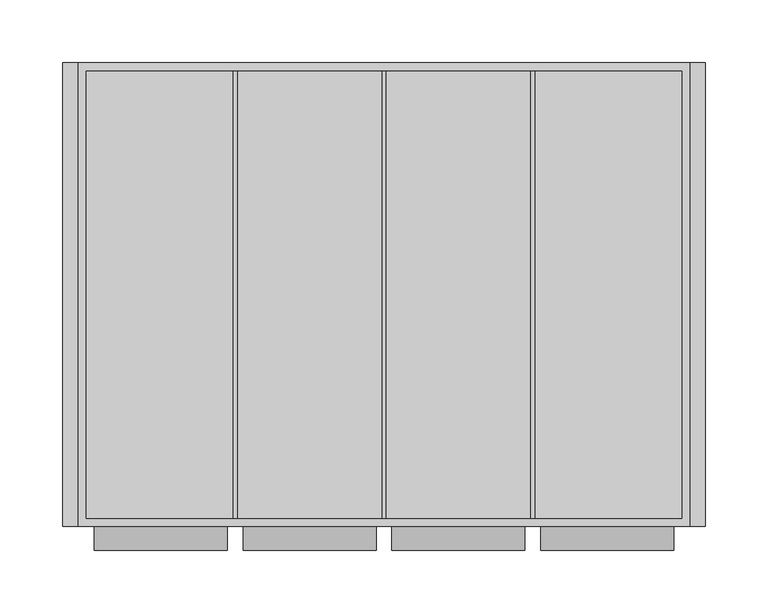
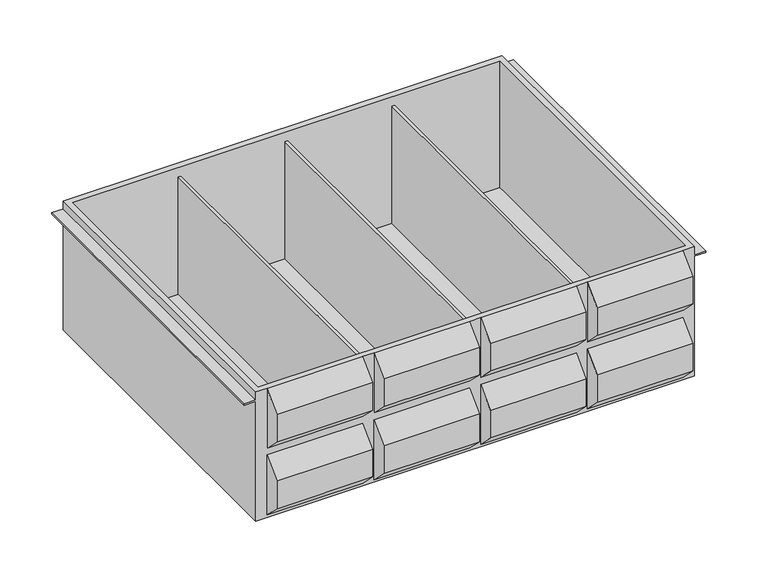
"""IFC4 building model written with IfcOpenShell, lengths in millimetres: furniture geometry, HermanMiller_CoStruc_CO565_Cassette Assembly : 6H x 15D x 20W."""

from ifc_helpers import new_model, si_unit, origin, place, context, project, spatial, faceted_brep, source, transform, mapped, element, save


def furniture_104e2584(model_context):
    return source(origin(), model_context, "Body", "Brep", [
        faceted_brep([(-238.125, -176.2125, 925.4109), (-250.825, -176.2125, 925.4109), (-250.825, -176.2125, 915.8986), (-263.525, -176.2125, 915.8986), (-263.525, -176.2125, 914.3111), (-250.825, -176.2125, 914.3111), (-250.825, -176.2125, 773.0109), (238.125, -176.2125, 773.0109), (238.125, -176.2125, 914.3111), (250.825, -176.2125, 914.3111), (250.825, -176.2125, 915.8986), (238.125, -176.2125, 915.8986), (238.125, -176.2125, 925.4109), (225.425, -176.2125, 925.4109), (225.425, -176.2125, 854.8226237), (119.0625, -176.2125, 854.8226237), (119.0625, -176.2125, 925.4109), (106.3625, -176.2125, 925.4109), (106.3625, -176.2125, 854.8226237), (0.0, -176.2125, 854.8226237), (0.0, -176.2125, 925.4109), (-12.7, -176.2125, 925.4109), (-12.7, -176.2125, 854.8226237), (-119.0625, -176.2125, 854.8226237), (-119.0625, -176.2125, 925.4109), (-131.7625, -176.2125, 925.4109), (-131.7625, -176.2125, 854.8226237), (-238.125, -176.2125, 854.8226237), (-131.7625, -176.2125, 846.6253481), (-131.7625, -176.2125, 776.0370719), (-238.125, -176.2125, 776.0370719), (-238.125, -176.2125, 846.6253481), (-119.0625, -176.2125, 776.0370719), (-119.0625, -176.2125, 846.6253481), (-12.7, -176.2125, 846.6253481), (-12.7, -176.2125, 776.0370719), (106.3625, -176.2125, 846.6253481), (106.3625, -176.2125, 776.0370719), (0.0, -176.2125, 776.0370719), (0.0, -176.2125, 846.6253481), (119.0625, -176.2125, 776.0370719), (119.0625, -176.2125, 846.6253481), (225.425, -176.2125, 846.6253481), (225.425, -176.2125, 776.0370719), (-250.825, 195.2625, 925.4109), (238.125, 195.2625, 925.4109), (238.125, 195.2625, 915.8986), (250.825, 195.2625, 915.8986), (250.825, 195.2625, 914.3111), (238.125, 195.2625, 914.3111), (238.125, 195.2625, 773.0109), (-250.825, 195.2625, 773.0109), (-250.825, 195.2625, 914.3111), (-263.525, 195.2625, 914.3111), (-263.525, 195.2625, 915.8986), (-250.825, 195.2625, 915.8986), (231.775, -169.8625, 925.4109), (-244.475, -169.8625, 925.4109), (-244.475, 188.2775, 925.4109), (231.775, 188.2775, 925.4109), (-131.7625, -195.2625, 795.0870719), (-131.7625, -195.2625, 827.5753481), (-131.7625, -195.2625, 906.3609), (-131.7625, -195.2625, 873.8726237), (-238.125, -195.2625, 795.0870719), (-238.125, -195.2625, 827.5753481), (-238.125, -195.2625, 873.8726237), (-238.125, -195.2625, 906.3609), (231.775, -169.8625, 776.0370719), (231.775, 188.2775, 776.0370719), (114.3, 188.2775, 776.0370719), (114.3, -169.8625, 776.0370719), (-244.475, 188.2775, 776.0370719), (-244.475, -169.8625, 776.0370719), (-127.0, -169.8625, 776.0370719), (-127.0, 188.2775, 776.0370719), (-4.7625, -169.8625, 776.0370719), (111.125, -169.8625, 776.0370719), (111.125, 188.2775, 776.0370719), (-4.7625, 188.2775, 776.0370719), (-123.825, -169.8625, 776.0370719), (-7.9375, -169.8625, 776.0370719), (-7.9375, 188.2775, 776.0370719), (-123.825, 188.2775, 776.0370719), (114.3, -169.8625, 914.3111), (111.125, -169.8625, 914.3111), (-4.7625, -169.8625, 914.3111), (-7.9375, -169.8625, 914.3111), (-123.825, -169.8625, 914.3111), (-127.0, -169.8625, 914.3111), (-127.0, 188.2775, 914.3111), (-123.825, 188.2775, 914.3111), (-7.9375, 188.2775, 914.3111), (-4.7625, 188.2775, 914.3111), (111.125, 188.2775, 914.3111), (114.3, 188.2775, 914.3111), (-119.0625, -195.2625, 795.0870719), (-119.0625, -195.2625, 827.5753481), (-119.0625, -195.2625, 873.8726237), (-119.0625, -195.2625, 906.3609), (-12.7, -195.2625, 795.0870719), (-12.7, -195.2625, 827.5753481), (-12.7, -195.2625, 906.3609), (-12.7, -195.2625, 873.8726237), (106.3625, -195.2625, 795.0870719), (106.3625, -195.2625, 827.5753481), (106.3625, -195.2625, 906.3609), (106.3625, -195.2625, 873.8726237), (0.0, -195.2625, 795.0870719), (0.0, -195.2625, 827.5753481), (0.0, -195.2625, 873.8726237), (0.0, -195.2625, 906.3609), (119.0625, -195.2625, 795.0870719), (119.0625, -195.2625, 827.5753481), (119.0625, -195.2625, 873.8726237), (119.0625, -195.2625, 906.3609), (225.425, -195.2625, 795.0870719), (225.425, -195.2625, 827.5753481), (225.425, -195.2625, 906.3609), (225.425, -195.2625, 873.8726237)], [[[0, 1, 2, 3, 4, 5, 6, 7, 8, 9, 10, 11, 12, 13, 14, 15, 16, 17, 18, 19, 20, 21, 22, 23, 24, 25, 26, 27], [28, 29, 30, 31], [32, 33, 34, 35], [36, 37, 38, 39], [40, 41, 42, 43]], [[44, 45, 46, 47, 48, 49, 50, 51, 52, 53, 54, 55]], [[51, 50, 7, 6]], [[7, 50, 49, 8]], [[45, 12, 11, 46]], [[45, 44, 1, 0, 25, 24, 21, 20, 17, 16, 13, 12], [56, 57, 58, 59]], [[51, 6, 5, 52]], [[1, 44, 55, 2]], [[60, 29, 28, 61]], [[25, 62, 63, 26]], [[64, 65, 31, 30]], [[27, 66, 67, 0]], [[29, 60, 64, 30]], [[62, 25, 0, 67]], [[63, 62, 67, 66]], [[26, 63, 66, 27]], [[61, 28, 31, 65]], [[60, 61, 65, 64]], [[68, 69, 70, 71]], [[72, 73, 74, 75]], [[76, 77, 78, 79]], [[80, 81, 82, 83]], [[56, 68, 71, 84, 85, 77, 76, 86, 87, 81, 80, 88, 89, 74, 73, 57]], [[69, 68, 56, 59]], [[69, 59, 58, 72, 75, 90, 91, 83, 82, 92, 93, 79, 78, 94, 95, 70]], [[73, 72, 58, 57]], [[96, 97, 33, 32]], [[23, 98, 99, 24]], [[100, 35, 34, 101]], [[21, 102, 103, 22]], [[97, 96, 100, 101]], [[33, 97, 101, 34]], [[98, 23, 22, 103]], [[99, 98, 103, 102]], [[24, 99, 102, 21]], [[96, 32, 35, 100]], [[104, 37, 36, 105]], [[17, 106, 107, 18]], [[108, 109, 39, 38]], [[19, 110, 111, 20]], [[37, 104, 108, 38]], [[106, 17, 20, 111]], [[107, 106, 111, 110]], [[18, 107, 110, 19]], [[105, 36, 39, 109]], [[104, 105, 109, 108]], [[112, 113, 41, 40]], [[15, 114, 115, 16]], [[116, 43, 42, 117]], [[13, 118, 119, 14]], [[113, 112, 116, 117]], [[41, 113, 117, 42]], [[114, 15, 14, 119]], [[115, 114, 119, 118]], [[16, 115, 118, 13]], [[112, 40, 43, 116]], [[54, 53, 4, 3]], [[55, 54, 3, 2]], [[53, 52, 5, 4]], [[49, 48, 9, 8]], [[47, 46, 11, 10]], [[48, 47, 10, 9]], [[88, 91, 90, 89]], [[84, 95, 94, 85]], [[86, 93, 92, 87]], [[91, 88, 80, 83]], [[89, 90, 75, 74]], [[95, 84, 71, 70]], [[85, 94, 78, 77]], [[93, 86, 76, 79]], [[87, 92, 82, 81]]]),
    ])


if __name__ == "__main__":
    model = new_model("IFC4")
    model_context = context("Model", 3, world=origin())
    ifc_project = project(units=[si_unit("LENGTHUNIT", "METRE", prefix="MILLI")], contexts=[model_context])
    site = spatial("IfcSite", under=ifc_project)
    building = spatial("IfcBuilding", under=site)
    placement = place(None, origin())
    furniture_shape = furniture_104e2584(model_context)
    element("IfcFurniture", 1, ObjectType="HermanMiller_CoStruc_CO565_Cassette Assembly : 6H x 15D x 20W", at=placement, inside=building, context=model_context, shape_type="MappedRepresentation", body=[
        mapped(furniture_shape, transform((0.0, 0.0, 0.0), x_axis=(1.0, 0.0, 0.0), y_axis=(0.0, 1.0, 0.0), z_axis=(0.0, 0.0, 1.0))),
    ])
    save(model, "model.ifc")
